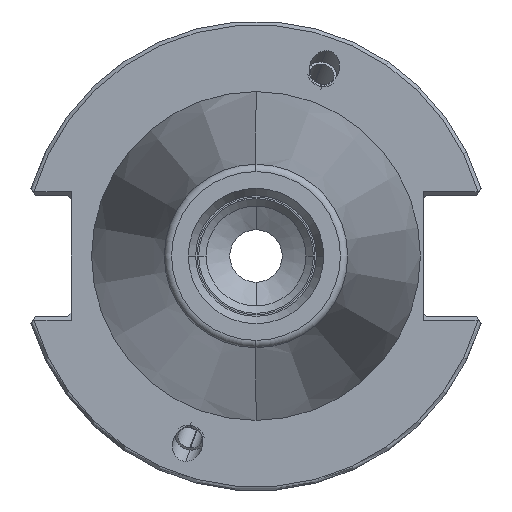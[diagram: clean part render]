
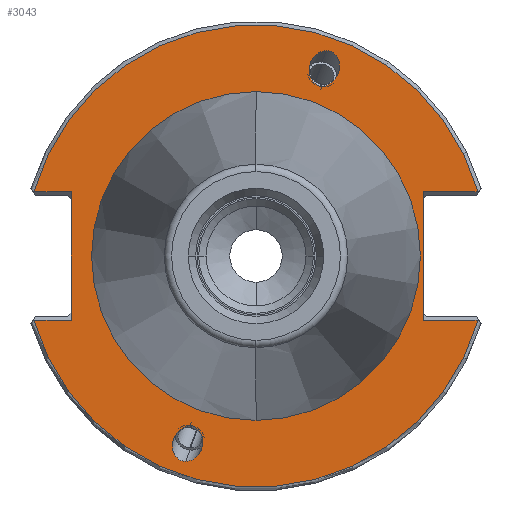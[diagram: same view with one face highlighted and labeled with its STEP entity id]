
A CAD part, left-side view. The second image highlights one B-rep face of the part: STEP entity #3043.
In plain terms, the highlighted planar face has unit normal (-1, 0, 0).
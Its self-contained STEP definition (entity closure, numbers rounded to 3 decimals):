
#116=CARTESIAN_POINT('',(3.175,0.,0.));
#117=DIRECTION('',(1.,0.,0.));
#118=DIRECTION('',(0.,1.,0.));
#119=AXIS2_PLACEMENT_3D('',#116,#117,#118);
#121=CARTESIAN_POINT('',(3.175,0.,0.));
#122=DIRECTION('',(1.,0.,0.));
#123=DIRECTION('',(0.,-1.,0.));
#124=AXIS2_PLACEMENT_3D('',#121,#122,#123);
#126=CARTESIAN_POINT('',(3.175,9.498,-27.766));
#127=CARTESIAN_POINT('',(3.175,9.257,-27.766));
#128=CARTESIAN_POINT('',(3.175,8.727,-27.663));
#129=CARTESIAN_POINT('',(3.175,7.941,-27.117));
#130=CARTESIAN_POINT('',(3.175,7.379,-26.257));
#131=CARTESIAN_POINT('',(3.175,7.151,-25.372));
#132=CARTESIAN_POINT('',(3.175,7.185,-24.486));
#133=CARTESIAN_POINT('',(3.175,7.557,-23.627));
#134=CARTESIAN_POINT('',(3.175,8.223,-23.08));
#135=CARTESIAN_POINT('',(3.175,8.731,-22.978));
#136=CARTESIAN_POINT('',(3.175,8.971,-22.978));
#138=CARTESIAN_POINT('',(3.175,8.971,-22.978));
#139=CARTESIAN_POINT('',(3.175,9.212,-22.978));
#140=CARTESIAN_POINT('',(3.175,9.742,-23.08));
#141=CARTESIAN_POINT('',(3.175,10.528,-23.627));
#142=CARTESIAN_POINT('',(3.175,11.09,-24.486));
#143=CARTESIAN_POINT('',(3.175,11.318,-25.372));
#144=CARTESIAN_POINT('',(3.175,11.284,-26.257));
#145=CARTESIAN_POINT('',(3.175,10.912,-27.117));
#146=CARTESIAN_POINT('',(3.175,10.246,-27.663));
#147=CARTESIAN_POINT('',(3.175,9.738,-27.766));
#148=CARTESIAN_POINT('',(3.175,9.498,-27.766));
#150=CARTESIAN_POINT('',(3.175,-9.498,27.766));
#151=CARTESIAN_POINT('',(3.175,-9.257,27.766));
#152=CARTESIAN_POINT('',(3.175,-8.727,27.663));
#153=CARTESIAN_POINT('',(3.175,-7.941,27.117));
#154=CARTESIAN_POINT('',(3.175,-7.379,26.257));
#155=CARTESIAN_POINT('',(3.175,-7.151,25.372));
#156=CARTESIAN_POINT('',(3.175,-7.185,24.486));
#157=CARTESIAN_POINT('',(3.175,-7.557,23.627));
#158=CARTESIAN_POINT('',(3.175,-8.223,23.08));
#159=CARTESIAN_POINT('',(3.175,-8.731,22.978));
#160=CARTESIAN_POINT('',(3.175,-8.971,22.978));
#162=CARTESIAN_POINT('',(3.175,-8.971,22.978));
#163=CARTESIAN_POINT('',(3.175,-9.212,22.978));
#164=CARTESIAN_POINT('',(3.175,-9.742,23.08));
#165=CARTESIAN_POINT('',(3.175,-10.528,23.627));
#166=CARTESIAN_POINT('',(3.175,-11.09,24.486));
#167=CARTESIAN_POINT('',(3.175,-11.318,25.372));
#168=CARTESIAN_POINT('',(3.175,-11.284,26.257));
#169=CARTESIAN_POINT('',(3.175,-10.912,27.117));
#170=CARTESIAN_POINT('',(3.175,-10.246,27.663));
#171=CARTESIAN_POINT('',(3.175,-9.738,27.766));
#172=CARTESIAN_POINT('',(3.175,-9.498,27.766));
#174=DIRECTION('',(0.,-1.,0.));
#175=VECTOR('',#174,5.017);
#176=CARTESIAN_POINT('',(3.175,30.017,8.69));
#177=LINE('',#176,#175);
#178=DIRECTION('',(0.,-1.,0.));
#179=VECTOR('',#178,7.417);
#180=CARTESIAN_POINT('',(3.175,-22.6,8.69));
#181=LINE('',#180,#179);
#182=DIRECTION('',(0.,1.,0.));
#183=VECTOR('',#182,7.417);
#184=CARTESIAN_POINT('',(3.175,-30.017,-8.69));
#185=LINE('',#184,#183);
#186=DIRECTION('',(0.,1.,0.));
#187=VECTOR('',#186,5.017);
#188=CARTESIAN_POINT('',(3.175,25.,-8.69));
#189=LINE('',#188,#187);
#625=DIRECTION('',(0.,0.,-1.));
#626=VECTOR('',#625,17.38);
#627=CARTESIAN_POINT('',(3.175,25.,8.69));
#628=LINE('',#627,#626);
#767=DIRECTION('',(0.,0.,1.));
#768=VECTOR('',#767,17.38);
#769=CARTESIAN_POINT('',(3.175,-22.6,-8.69));
#770=LINE('',#769,#768);
#847=CARTESIAN_POINT('',(3.175,0.,0.));
#848=DIRECTION('',(-1.,0.,0.));
#849=DIRECTION('',(0.,-0.961,0.278));
#850=AXIS2_PLACEMENT_3D('',#847,#848,#849);
#921=CARTESIAN_POINT('',(3.175,0.,0.));
#922=DIRECTION('',(-1.,0.,0.));
#923=DIRECTION('',(0.,0.961,-0.278));
#924=AXIS2_PLACEMENT_3D('',#921,#922,#923);
#2470=CARTESIAN_POINT('',(3.175,22.2,0.));
#2471=CARTESIAN_POINT('',(3.175,-22.2,0.));
#2472=VERTEX_POINT('',#2470);
#2473=VERTEX_POINT('',#2471);
#2536=VERTEX_POINT('',#126);
#2537=VERTEX_POINT('',#136);
#2572=CARTESIAN_POINT('',(3.175,30.017,8.69));
#2573=CARTESIAN_POINT('',(3.175,25.,8.69));
#2574=VERTEX_POINT('',#2572);
#2575=VERTEX_POINT('',#2573);
#2580=CARTESIAN_POINT('',(3.175,25.,-8.69));
#2581=CARTESIAN_POINT('',(3.175,30.017,-8.69));
#2582=VERTEX_POINT('',#2580);
#2583=VERTEX_POINT('',#2581);
#2588=CARTESIAN_POINT('',(3.175,-22.6,8.69));
#2589=CARTESIAN_POINT('',(3.175,-30.017,8.69));
#2590=VERTEX_POINT('',#2588);
#2591=VERTEX_POINT('',#2589);
#2596=CARTESIAN_POINT('',(3.175,-30.017,
-8.69));
#2597=CARTESIAN_POINT('',(3.175,-22.6,-8.69));
#2598=VERTEX_POINT('',#2596);
#2599=VERTEX_POINT('',#2597);
#2634=CARTESIAN_POINT('',(3.175,-9.498,27.766));
#2635=VERTEX_POINT('',#2634);
#2636=CARTESIAN_POINT('',(3.175,-8.971,22.978));
#2637=VERTEX_POINT('',#2636);
#3004=CARTESIAN_POINT('',(3.175,0.,0.));
#3005=DIRECTION('',(1.,0.,0.));
#3006=DIRECTION('',(0.,0.,1.));
#3007=AXIS2_PLACEMENT_3D('',#3004,#3005,#3006);
#3008=PLANE('',#3007);
#3010=ORIENTED_EDGE('',*,*,#3009,.F.);
#3012=ORIENTED_EDGE('',*,*,#3011,.F.);
#3014=ORIENTED_EDGE('',*,*,#3013,.F.);
#3016=ORIENTED_EDGE('',*,*,#3015,.F.);
#3018=ORIENTED_EDGE('',*,*,#3017,.F.);
#3020=ORIENTED_EDGE('',*,*,#3019,.F.);
#3022=ORIENTED_EDGE('',*,*,#3021,.F.);
#3024=ORIENTED_EDGE('',*,*,#3023,.F.);
#3025=EDGE_LOOP('',(#3010,#3012,#3014,#3016,#3018,#3020,#3022,#3024));
#3026=FACE_OUTER_BOUND('',#3025,.F.);
#3028=ORIENTED_EDGE('',*,*,#3027,.T.);
#3030=ORIENTED_EDGE('',*,*,#3029,.T.);
#3031=EDGE_LOOP('',(#3028,#3030));
#3032=FACE_BOUND('',#3031,.F.);
#3034=ORIENTED_EDGE('',*,*,#3033,.T.);
#3036=ORIENTED_EDGE('',*,*,#3035,.T.);
#3037=EDGE_LOOP('',(#3034,#3036));
#3038=FACE_BOUND('',#3037,.F.);
#3039=ORIENTED_EDGE('',*,*,#2957,.F.);
#3040=ORIENTED_EDGE('',*,*,#2972,.F.);
#3041=EDGE_LOOP('',(#3039,#3040));
#3042=FACE_BOUND('',#3041,.F.);
#3043=ADVANCED_FACE('',(#3026,#3032,#3038,#3042),#3008,.F.);
#120=CIRCLE('',#119,22.2);
#125=CIRCLE('',#124,22.2);
#137=B_SPLINE_CURVE_WITH_KNOTS('',3,(#126,#127,#128,#129,#130,#131,#132,#133,
#134,#135,#136),.UNSPECIFIED.,.F.,.F.,(4,1,1,1,1,1,1,1,4),(0.,0.125,0.25,
0.375,0.5,0.625,0.75,0.875,1.),.UNSPECIFIED.);
#149=B_SPLINE_CURVE_WITH_KNOTS('',3,(#138,#139,#140,#141,#142,#143,#144,#145,
#146,#147,#148),.UNSPECIFIED.,.F.,.F.,(4,1,1,1,1,1,1,1,4),(0.,0.125,0.25,
0.375,0.5,0.625,0.75,0.875,1.),.UNSPECIFIED.);
#161=B_SPLINE_CURVE_WITH_KNOTS('',3,(#150,#151,#152,#153,#154,#155,#156,#157,
#158,#159,#160),.UNSPECIFIED.,.F.,.F.,(4,1,1,1,1,1,1,1,4),(0.,0.125,0.25,
0.375,0.5,0.625,0.75,0.875,1.),.UNSPECIFIED.);
#173=B_SPLINE_CURVE_WITH_KNOTS('',3,(#162,#163,#164,#165,#166,#167,#168,#169,
#170,#171,#172),.UNSPECIFIED.,.F.,.F.,(4,1,1,1,1,1,1,1,4),(0.,0.125,0.25,
0.375,0.5,0.625,0.75,0.875,1.),.UNSPECIFIED.);
#851=CIRCLE('',#850,31.25);
#925=CIRCLE('',#924,31.25);
#2957=EDGE_CURVE('',#2472,#2473,#120,.T.);
#2972=EDGE_CURVE('',#2473,#2472,#125,.T.);
#3009=EDGE_CURVE('',#2574,#2575,#177,.T.);
#3011=EDGE_CURVE('',#2591,#2574,#851,.T.);
#3013=EDGE_CURVE('',#2590,#2591,#181,.T.);
#3015=EDGE_CURVE('',#2599,#2590,#770,.T.);
#3017=EDGE_CURVE('',#2598,#2599,#185,.T.);
#3019=EDGE_CURVE('',#2583,#2598,#925,.T.);
#3021=EDGE_CURVE('',#2582,#2583,#189,.T.);
#3023=EDGE_CURVE('',#2575,#2582,#628,.T.);
#3027=EDGE_CURVE('',#2536,#2537,#137,.T.);
#3029=EDGE_CURVE('',#2537,#2536,#149,.T.);
#3033=EDGE_CURVE('',#2635,#2637,#161,.T.);
#3035=EDGE_CURVE('',#2637,#2635,#173,.T.);
